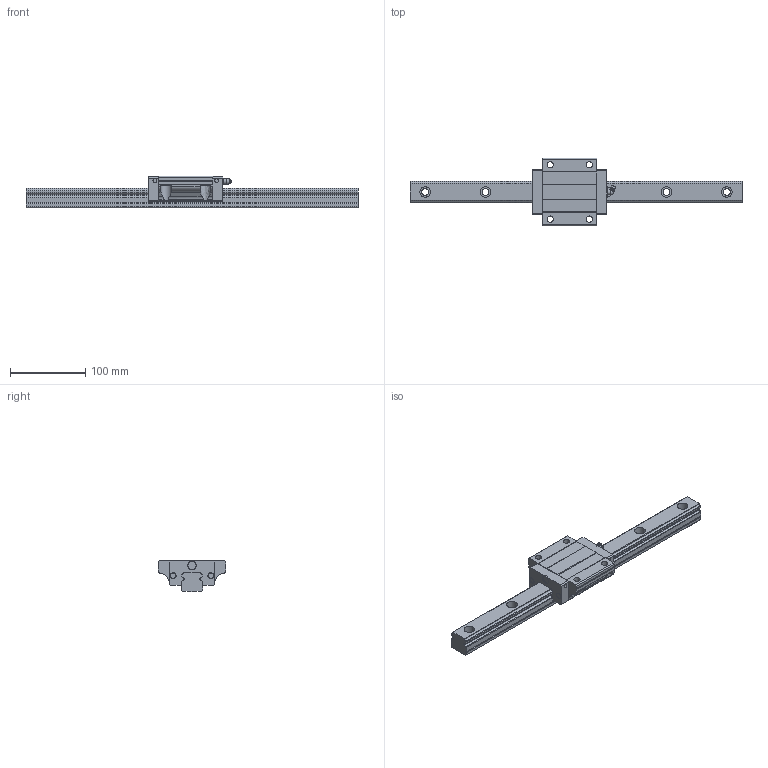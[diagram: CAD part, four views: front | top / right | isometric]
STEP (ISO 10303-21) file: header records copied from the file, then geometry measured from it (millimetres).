
FILE_DESCRIPTION((''),'2;1');
FILE_NAME('D:\製品 (図面)\カタログ用3D\リニアガイド関連\STEP形式\LGHR-F\LGHR30F.stp','2010-06-02T15:54:10',('Tsuchiya'),(''),'Autodesk Inventor 10','Autodesk Inventor 10','');
FILE_SCHEMA(('AUTOMOTIVE_DESIGN { 1 0 10303 214 1 1 1 1 }'));
Length unit declared in the file: millimetre
Products named in the file (3): LGHR30F; LGHR30F1; LGHR30F2
Assembly tree (2 placements, depth 2):
  LGHR30F
    LGHR30F1
    LGHR30F2
Bounding box: 440 x 90 x 42 mm (x, y, z)
Volume: 464311.3 mm3; surface area: 90320 mm2
Topology: 2 solids, 2 shells, 223 faces, 596 edges, 395 vertices
Faces by surface type: plane 110, cylinder 65, bspline 43, sphere 3, cone 2
Full cylindrical faces by diameter (mm): 5.2 x2, 7 x3, 7.7 x1, 8 x2, 8.376 x2, 11 x1
Entity records: 7402 total; most frequent: CARTESIAN_POINT 1920, ORIENTED_EDGE 1100, DIRECTION 1084, EDGE_CURVE 550, VERTEX_POINT 390, AXIS2_PLACEMENT_3D 369, VECTOR 346, LINE 346
